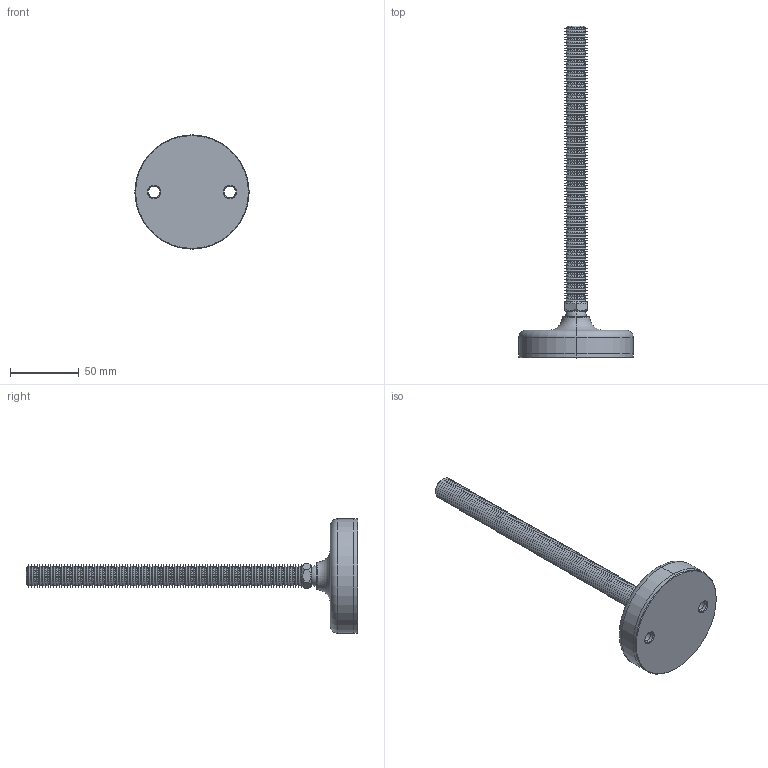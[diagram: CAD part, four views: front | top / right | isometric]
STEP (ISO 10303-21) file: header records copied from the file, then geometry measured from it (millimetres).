
FILE_DESCRIPTION (( 'STEP AP203' ), '1' );
FILE_NAME ('34724.W1606.step', '2019-11-28T22:12:52', ( '' ), ( '' ), 'SwSTEP 2.0', 'SolidWorks 2017', '' );
FILE_SCHEMA (( 'CONFIG_CONTROL_DESIGN' ));
Length unit declared in the file: millimetre
Products named in the file (4): Part1_34724.W1606; Part3_34724.W1606; Part2_34724.W1606; 34724.W1606
Assembly tree (3 placements, depth 2):
  34724.W1606
    Part1_34724.W1606
    Part2_34724.W1606
    Part3_34724.W1606
Bounding box: 83 x 241 x 83 mm (x, y, z)
Volume: 143550.1 mm3; surface area: 46425.3 mm2
Topology: 3 solids, 3 shells, 452 faces, 919 edges, 473 vertices
Faces by surface type: cone 418, plane 14, cylinder 12, sphere 4, torus 4
Entity records: 11962 total; most frequent: DIRECTION 2276, CARTESIAN_POINT 1984, ORIENTED_EDGE 1820, AXIS2_PLACEMENT_3D 920, EDGE_CURVE 910, VERTEX_POINT 468, EDGE_LOOP 464, CIRCLE 462
